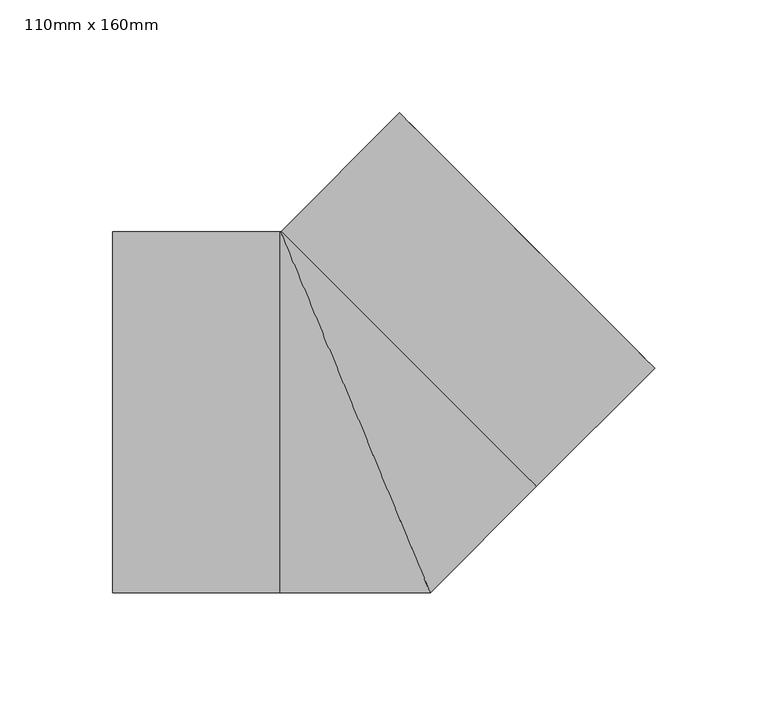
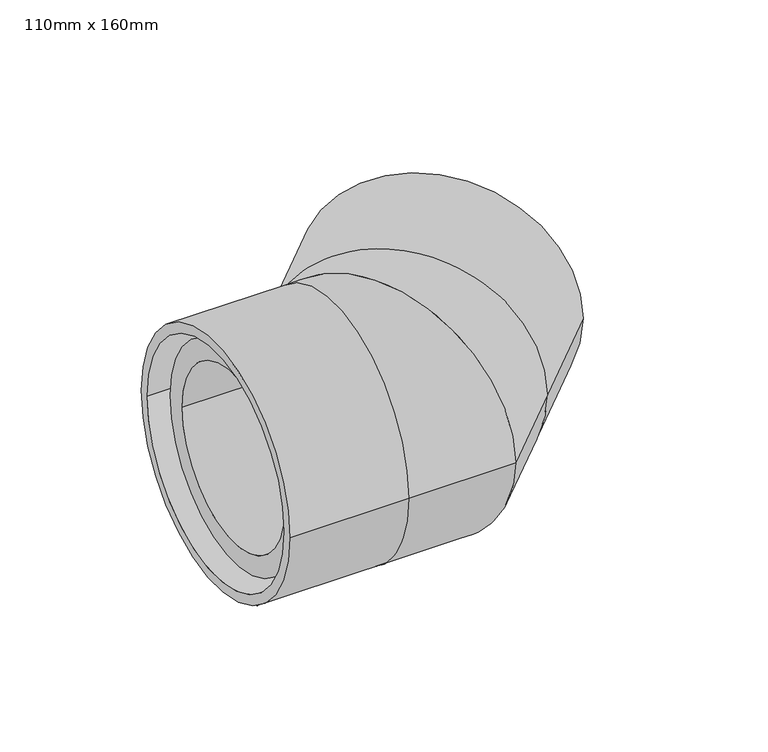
"""IFC4 building model written with IfcOpenShell, lengths in millimetres: pipe fitting geometry, Durapipe_PipeFittings_PLX_CloseFit_45Elbow : 110mm x 160mm."""

from ifc_helpers import new_model, si_unit, point, frame, origin, place, context, project, spatial, polyline, circle_curve, ellipse_curve, trimmed, source, transform, mapped, element, save
from ifc_brep_helpers import plane_surface, cylinder_surface, revolved_surface, advanced_brep


def pipe_fitting_110mm_x_160mm_b5c858ce(model_context):
    return source(origin(), model_context, "Body", "AdvancedBrep", [
        advanced_brep(
        [(-107.6, -80.0, 0.0), (-107.6, 80.0, 0.0), (-107.6, -73.75, 0.0), (-107.6, 73.75, 0.0), (-33.5512986, -80.0, 0.0), (-33.5512986, 80.0, 0.0), (-33.5512986, -73.75, 0.0), (-33.5512986, 73.75, 0.0), (132.6532322, 19.5161472, 0.0), (19.5161472, 132.6532322, 0.0), (128.2338148, 23.9355645, 0.0), (23.9355645, 128.2338148, 0.0), (-32.8441918, 80.2928932, 0.0), (80.2928932, -32.8441918, 0.0), (-28.4247744, 75.8734758, 0.0), (75.8734758, -28.4247744, 0.0), (33.137085, -80.0, 0.0), (-33.137085, 80.0, 0.0), (30.5482502, -73.75, 0.0), (-30.5482502, 73.75, 0.0)],
        [
            (0, 1, circle_curve(frame((-107.6, 0.0, 0.0), z_axis=(-1.0, 0.0, 0.0), x_axis=(0.0, 1.0, 0.0)), 80.0)),
            (1, 0, circle_curve(frame((-107.6, 0.0, 0.0), z_axis=(-1.0, 0.0, 0.0), x_axis=(0.0, 1.0, 0.0)), 80.0)),
            (2, 3, circle_curve(frame((-107.6, 0.0, 0.0), z_axis=(1.0, 0.0, 0.0), x_axis=(0.0, 1.0, 0.0)), 73.75)),
            (3, 2, circle_curve(frame((-107.6, 0.0, 0.0), z_axis=(1.0, 0.0, 0.0), x_axis=(0.0, 1.0, 0.0)), 73.75)),
            (0, 4),
            (4, 5, circle_curve(frame((-33.5512986, 0.0, 0.0), z_axis=(-1.0, 0.0, 0.0), x_axis=(0.0, 1.0, 0.0)), 80.0)),
            (5, 1),
            (5, 4, circle_curve(frame((-33.5512986, 0.0, 0.0), z_axis=(-1.0, 0.0, 0.0), x_axis=(0.0, 1.0, 0.0)), 80.0)),
            (2, 6),
            (6, 7, circle_curve(frame((-33.5512986, 0.0, 0.0), z_axis=(1.0, 0.0, 0.0), x_axis=(0.0, 1.0, 0.0)), 73.75)),
            (7, 3),
            (7, 6, circle_curve(frame((-33.5512986, 0.0, 0.0), z_axis=(1.0, 0.0, 0.0), x_axis=(0.0, 1.0, 0.0)), 73.75)),
            (8, 9, circle_curve(frame((76.0846897, 76.0846897, 0.0), z_axis=(0.7071067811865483, 0.7071067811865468, 0.0), x_axis=(-0.7071067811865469, 0.7071067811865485, 0.0)), 80.0)),
            (9, 8, circle_curve(frame((76.0846897, 76.0846897, 0.0), z_axis=(0.7071067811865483, 0.7071067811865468, 0.0), x_axis=(-0.7071067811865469, 0.7071067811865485, 0.0)), 80.0)),
            (10, 11, circle_curve(frame((76.0846897, 76.0846897, 0.0), z_axis=(-0.7071067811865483, -0.7071067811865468, 0.0), x_axis=(-0.7071067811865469, 0.7071067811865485, 0.0)), 73.75)),
            (11, 10, circle_curve(frame((76.0846897, 76.0846897, 0.0), z_axis=(-0.7071067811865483, -0.7071067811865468, 0.0), x_axis=(-0.7071067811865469, 0.7071067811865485, 0.0)), 73.75)),
            (12, 13, circle_curve(frame((23.7243507, 23.7243507, 0.0), z_axis=(0.7071067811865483, 0.7071067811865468, 0.0), x_axis=(-0.7071067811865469, 0.7071067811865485, 0.0)), 80.0)),
            (13, 8),
            (9, 12),
            (13, 12, circle_curve(frame((23.7243507, 23.7243507, 0.0), z_axis=(0.7071067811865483, 0.7071067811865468, 0.0), x_axis=(-0.7071067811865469, 0.7071067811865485, 0.0)), 80.0)),
            (14, 15, circle_curve(frame((23.7243507, 23.7243507, 0.0), z_axis=(-0.7071067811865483, -0.7071067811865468, 0.0), x_axis=(-0.7071067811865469, 0.7071067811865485, 0.0)), 73.75)),
            (15, 10),
            (11, 14),
            (15, 14, circle_curve(frame((23.7243507, 23.7243507, 0.0), z_axis=(-0.7071067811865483, -0.7071067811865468, 0.0), x_axis=(-0.7071067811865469, 0.7071067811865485, 0.0)), 73.75)),
            (4, 16),
            (16, 17, ellipse_curve(frame((0.0, 0.0, 0.0), z_axis=(-0.9238795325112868, -0.3826834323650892, 0.0), x_axis=(-0.3826834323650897, 0.9238795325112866, 0.0)), 86.591376, 80.0)),
            (17, 5),
            (17, 16, ellipse_curve(frame((0.0, 0.0, 0.0), z_axis=(-0.9238795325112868, -0.3826834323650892, 0.0), x_axis=(-0.3826834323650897, 0.9238795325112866, 0.0)), 86.591376, 80.0)),
            (6, 18),
            (18, 19, ellipse_curve(frame((0.0, 0.0, 0.0), z_axis=(0.9238795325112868, 0.3826834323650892, 0.0), x_axis=(0.3826834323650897, -0.9238795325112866, 0.0)), 79.8264248, 73.75)),
            (19, 7),
            (19, 18, ellipse_curve(frame((0.0, 0.0, 0.0), z_axis=(0.9238795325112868, 0.3826834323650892, 0.0), x_axis=(0.3826834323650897, -0.9238795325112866, 0.0)), 79.8264248, 73.75)),
            (16, 13),
            (12, 17),
            (18, 15),
            (14, 19),
        ],
        [
            plane_surface(frame((-107.6, 0.0, 0.0), z_axis=(-1.0, 0.0, 0.0), x_axis=(0.0, 0.0, 1.0))),
            cylinder_surface(frame((-107.6, 0.0, 0.0), z_axis=(-1.0, 0.0, 0.0), x_axis=(0.0, 1.0, 0.0)), 80.0),
            revolved_surface(polyline([(-33.551298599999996, 73.75, 0.0), (-107.6, 73.75, 0.0)]), (-107.6, 0.0, 0.0), (1.0, 0.0, 0.0)),
            plane_surface(frame((76.0846897, 76.0846897, 0.0), z_axis=(0.7071067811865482, 0.7071067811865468, 0.0), x_axis=(0.0, 0.0, 1.0))),
            cylinder_surface(frame((23.7243507, 23.7243507, 0.0), z_axis=(-0.7071067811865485, -0.7071067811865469, 0.0), x_axis=(-0.7071067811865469, 0.7071067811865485, 0.0)), 80.0),
            revolved_surface(polyline([(23.93556458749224, 128.23381481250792, 0.0), (-28.424774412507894, 75.87347581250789, 0.0)]), (23.7243507, 23.7243507, 0.0), (0.7071067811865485, 0.7071067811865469, 0.0)),
            cylinder_surface(frame((-33.5512986, 0.0, 0.0), z_axis=(-1.0, 0.0, 0.0), x_axis=(0.0, 1.0, 0.0)), 80.0),
            revolved_surface(polyline([(30.54825023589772, 73.75, 0.0), (-33.5512986, 73.75, 0.0)]), (-33.5512986, 0.0, 0.0), (1.0, 0.0, 0.0)),
            cylinder_surface(frame((0.0, 0.0, 0.0), z_axis=(-0.7071067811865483, -0.7071067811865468, 0.0), x_axis=(-0.7071067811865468, 0.7071067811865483, 0.0)), 80.0),
            revolved_surface(polyline([(-28.424774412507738, 75.87347581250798, 0.0), (-73.7500000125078, 30.548250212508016, 0.0)]), (0.0, 0.0, 0.0), (0.7071067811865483, 0.7071067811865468, 0.0)),
        ],
        [
            (0, [[1, 2], [3, 4]]),
            (1, [[-1, 5, 6, 7]]),
            (1, [[-2, -7, 8, -5]]),
            (2, [[-3, 9, 10, 11]]),
            (2, [[-4, -11, 12, -9]]),
            (3, [[13, 14], [15, 16]]),
            (4, [[17, 18, -14, 19]]),
            (4, [[20, -19, -13, -18]]),
            (5, [[21, 22, -16, 23]]),
            (5, [[24, -23, -15, -22]]),
            (6, [[-6, 25, 26, 27]]),
            (6, [[-8, -27, 28, -25]]),
            (7, [[-10, 29, 30, 31]]),
            (7, [[-12, -31, 32, -29]]),
            (8, [[-26, 33, -17, 34]]),
            (8, [[-28, -34, -20, -33]]),
            (9, [[-30, 35, -21, 36]]),
            (9, [[-32, -36, -24, -35]]),
        ],
    ),
        advanced_brep(
        [(-28.5807358, 68.0, 0.0), (-28.5807358, -68.0, 0.0), (68.2928932, -27.873629, 0.0), (-27.873629, 68.2928932, 0.0), (-96.5, -68.0, 0.0), (-96.5, 68.0, 0.0), (-96.5, -55.2, 0.0), (-96.5, 55.2, 0.0), (20.1525433, 116.3190655, 0.0), (116.3190655, 20.1525433, 0.0), (68.2358044, 68.2358044, 55.2), (68.2358044, 68.2358044, -55.2), (-26.5, 55.2, 0.0), (-26.5, -55.2, 0.0), (18.7383297, 18.7383297, -55.2), (18.7383297, 18.7383297, 55.2)],
        [
            (0, 1, circle_curve(frame((-28.5807358, 0.0, 0.0), z_axis=(1.0, 0.0, 0.0), x_axis=(0.0, 1.0, 0.0)), 68.0)),
            (1, 2, circle_curve(frame((-28.5807358, 69.0, 0.0), z_axis=(0.0, 0.0, 1.0), x_axis=(0.0, -1.0, 0.0)), 137.0)),
            (2, 3, circle_curve(frame((20.2096321, 20.2096321, 0.0), z_axis=(-0.707106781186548, -0.7071067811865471, 0.0), x_axis=(-0.7071067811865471, 0.707106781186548, 0.0)), 68.0)),
            (3, 0, circle_curve(frame((-28.5807358, 69.0, 0.0), z_axis=(0.0, 0.0, -1.0), x_axis=(0.0, -1.0, 0.0)), 1.0)),
            (1, 0, circle_curve(frame((-28.5807358, 0.0, 0.0), z_axis=(1.0, 0.0, 0.0), x_axis=(0.0, 1.0, 0.0)), 68.0)),
            (3, 2, circle_curve(frame((20.2096321, 20.2096321, 0.0), z_axis=(-0.7071067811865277, -0.7071067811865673, 0.0), x_axis=(-0.7071067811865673, 0.7071067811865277, 0.0)), 68.0)),
            (4, 5, circle_curve(frame((-96.5, 0.0, 0.0), z_axis=(-1.0, 0.0, 0.0), x_axis=(0.0, 1.0, 0.0)), 68.0)),
            (5, 4, circle_curve(frame((-96.5, 0.0, 0.0), z_axis=(-1.0, 0.0, 0.0), x_axis=(0.0, 1.0, 0.0)), 68.0)),
            (6, 7, circle_curve(frame((-96.5, 0.0, 0.0), z_axis=(1.0, 0.0, 0.0), x_axis=(0.0, -1.0, 0.0)), 55.2)),
            (7, 6, circle_curve(frame((-96.5, 0.0, 0.0), z_axis=(1.0, 0.0, 0.0), x_axis=(0.0, -1.0, 0.0)), 55.2)),
            (8, 9, circle_curve(frame((68.2358044, 68.2358044, 0.0), z_axis=(0.7071067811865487, 0.7071067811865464, 0.0), x_axis=(-0.7071067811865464, 0.7071067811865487, 0.0)), 68.0)),
            (9, 8, circle_curve(frame((68.2358044, 68.2358044, 0.0), z_axis=(0.7071067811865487, 0.7071067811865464, 0.0), x_axis=(-0.7071067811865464, 0.7071067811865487, 0.0)), 68.0)),
            (10, 11, circle_curve(frame((68.2358044, 68.2358044, 0.0), z_axis=(-0.7071067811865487, -0.7071067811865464, 0.0), x_axis=(0.0, 0.0, 1.0)), 55.2)),
            (11, 10, circle_curve(frame((68.2358044, 68.2358044, 0.0), z_axis=(-0.7071067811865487, -0.7071067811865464, 0.0), x_axis=(0.0, 0.0, 1.0)), 55.2)),
            (0, 5),
            (4, 1),
            (2, 9),
            (8, 3),
            (12, 13, circle_curve(frame((-26.5, 0.0, 0.0), z_axis=(-1.0, 0.0, 0.0), x_axis=(0.0, -1.0, 0.0)), 55.2)),
            (13, 12, circle_curve(frame((-26.5, 0.0, 0.0), z_axis=(-1.0, 0.0, 0.0), x_axis=(0.0, -1.0, 0.0)), 55.2)),
            (12, 7),
            (6, 13),
            (14, 15, circle_curve(frame((18.7383297, 18.7383297, 0.0), z_axis=(0.7071067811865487, 0.7071067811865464, 0.0), x_axis=(0.0, 0.0, 1.0)), 55.2)),
            (15, 14, circle_curve(frame((18.7383297, 18.7383297, 0.0), z_axis=(0.7071067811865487, 0.7071067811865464, 0.0), x_axis=(0.0, 0.0, 1.0)), 55.2)),
            (14, 11),
            (10, 15),
        ],
        [
            revolved_surface(trimmed(ellipse_curve(frame((-28.5807358, 0.0, 0.0), z_axis=(-1.0, 0.0, 0.0), x_axis=(0.0, 1.0, 0.0)), 68.0, 68.0), [point((-28.5807358, -68.0, 0.0))], [point((-28.5807358, 68.0, 0.0))], True, "CARTESIAN"), (-28.5807358, 69.0, 0.0), (0.0, 0.0, 1.0)),
            revolved_surface(trimmed(ellipse_curve(frame((-28.5807358, 0.0, 0.0), z_axis=(-1.0, 0.0, 0.0), x_axis=(0.0, 1.0, 0.0)), 68.0, 68.0), [point((-28.5807358, 68.0, 0.0))], [point((-28.5807358, -68.0, 0.0))], True, "CARTESIAN"), (-28.5807358, 69.0, 0.0), (0.0, 0.0, 1.0)),
            plane_surface(frame((-96.5, 0.0, 0.0), z_axis=(-1.0, 0.0, 0.0), x_axis=(0.0, 0.0, 1.0))),
            plane_surface(frame((68.2358044, 68.2358044, 0.0), z_axis=(0.7071067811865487, 0.7071067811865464, 0.0), x_axis=(0.0, 0.0, 1.0))),
            cylinder_surface(frame((-96.5, 0.0, 0.0), z_axis=(-1.0, 0.0, 0.0), x_axis=(0.0, 1.0, 0.0)), 68.0),
            cylinder_surface(frame((20.2096321, 20.2096321, 0.0), z_axis=(-0.7071067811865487, -0.7071067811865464, 0.0), x_axis=(-0.7071067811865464, 0.7071067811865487, 0.0)), 68.0),
            plane_surface(frame((-26.5, -55.2, 0.0), z_axis=(-1.0, 0.0, 0.0), x_axis=(0.0, 0.0, -1.0))),
            revolved_surface(polyline([(-96.5, -55.2, 0.0), (-26.5, -55.2, 0.0)]), (-26.5, 0.0, 0.0), (-1.0, 0.0, 0.0)),
            plane_surface(frame((18.7383297, 18.7383297, 55.2), z_axis=(0.7071067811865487, 0.7071067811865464, 0.0), x_axis=(-0.7071067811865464, 0.7071067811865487, 0.0))),
            revolved_surface(polyline([(68.23580440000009, 68.23580439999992, 55.2), (18.7383297, 18.7383297, 55.2)]), (18.7383297, 18.7383297, 0.0), (0.7071067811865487, 0.7071067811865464, 0.0)),
        ],
        [
            (0, [[1, 2, 3, 4]]),
            (1, [[5, -4, 6, -2]]),
            (2, [[7, 8], [9, 10]]),
            (3, [[11, 12], [13, 14]]),
            (4, [[-1, 15, -7, 16]]),
            (4, [[-5, -16, -8, -15]]),
            (5, [[-3, 17, -11, 18]]),
            (5, [[-6, -18, -12, -17]]),
            (6, [[19, 20]]),
            (7, [[-19, 21, -9, 22]]),
            (7, [[-20, -22, -10, -21]]),
            (8, [[23, 24]]),
            (9, [[-23, 25, -13, 26]]),
            (9, [[-24, -26, -14, -25]]),
        ],
    ),
    ])


if __name__ == "__main__":
    model = new_model("IFC4")
    model_context = context("Model", 3, world=origin())
    ifc_project = project(units=[si_unit("LENGTHUNIT", "METRE", prefix="MILLI")], contexts=[model_context])
    site = spatial("IfcSite", under=ifc_project)
    building = spatial("IfcBuilding", under=site)
    placement = place(None, origin())
    pipe_fitting_110mm_x_160mm_shape = pipe_fitting_110mm_x_160mm_b5c858ce(model_context)
    element("IfcPipeFitting", 1, ObjectType="Durapipe_PipeFittings_PLX_CloseFit_45Elbow : 110mm x 160mm", at=placement, inside=building, context=model_context, shape_type="MappedRepresentation", body=[
        mapped(pipe_fitting_110mm_x_160mm_shape, transform((0.0, 0.0, 0.0), x_axis=(1.0, 0.0, 0.0), y_axis=(0.0, 1.0, 0.0), z_axis=(0.0, 0.0, 1.0))),
    ])
    save(model, "model.ifc")
